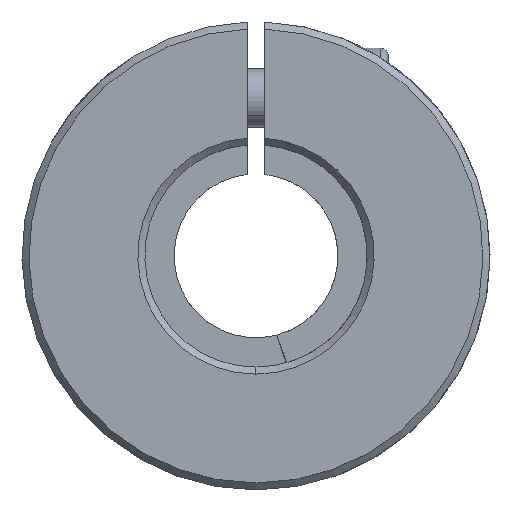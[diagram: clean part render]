
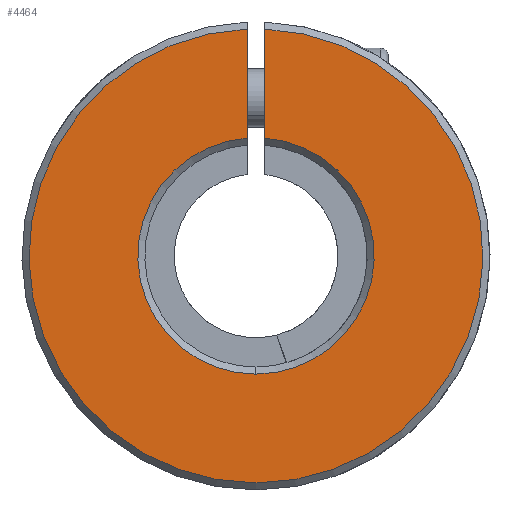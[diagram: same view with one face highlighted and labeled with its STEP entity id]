
A CAD part, front view. The second image highlights one B-rep face of the part: STEP entity #4464.
In plain terms, the highlighted planar face has unit normal (0, -1, 0).
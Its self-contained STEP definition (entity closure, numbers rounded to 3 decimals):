
#233 = DIRECTION ( 'NONE',  ( 0., 1., 0. ) ) ;
#430 = VECTOR ( 'NONE', #5551, 1000. ) ;
#548 = DIRECTION ( 'NONE',  ( 0., 0., 1. ) ) ;
#632 = LINE ( 'NONE', #1026, #430 ) ;
#737 = PLANE ( 'NONE',  #5043 ) ;
#1026 = CARTESIAN_POINT ( 'NONE',  ( 0.75, -25., -6. ) ) ;
#1065 = DIRECTION ( 'NONE',  ( 0., 0., 1. ) ) ;
#1120 = CARTESIAN_POINT ( 'NONE',  ( -0.75, -25., 19.385 ) ) ;
#1374 = CIRCLE ( 'NONE', #4742, 19.4 ) ;
#1436 = EDGE_LOOP ( 'NONE', ( #3938, #3217, #5619, #1895, #2095 ) ) ;
#1454 = DIRECTION ( 'NONE',  ( 0., 0., 1. ) ) ;
#1564 = CARTESIAN_POINT ( 'NONE',  ( -0.75, -25., 10.072 ) ) ;
#1575 = AXIS2_PLACEMENT_3D ( 'NONE', #5097, #5602, #2839 ) ;
#1685 = EDGE_CURVE ( 'NONE', #2582, #1964, #1374, .T. ) ;
#1707 = EDGE_CURVE ( 'NONE', #1964, #4754, #632, .T. ) ;
#1716 = EDGE_CURVE ( 'NONE', #2279, #2582, #5073, .T. ) ;
#1723 = DIRECTION ( 'NONE',  ( 0., -1., 0. ) ) ;
#1895 = ORIENTED_EDGE ( 'NONE', *, *, #1716, .T. ) ;
#1964 = VERTEX_POINT ( 'NONE', #3795 ) ;
#2095 = ORIENTED_EDGE ( 'NONE', *, *, #1685, .T. ) ;
#2279 = VERTEX_POINT ( 'NONE', #1564 ) ;
#2582 = VERTEX_POINT ( 'NONE', #1120 ) ;
#2739 = CARTESIAN_POINT ( 'NONE',  ( 0., -25., -10.1 ) ) ;
#2794 = CIRCLE ( 'NONE', #1575, 10.1 ) ;
#2824 = DIRECTION ( 'NONE',  ( 0., 1., 0. ) ) ;
#2839 = DIRECTION ( 'NONE',  ( 0., 0., 1. ) ) ;
#2886 = EDGE_CURVE ( 'NONE', #4754, #5101, #2794, .T. ) ;
#3217 = ORIENTED_EDGE ( 'NONE', *, *, #2886, .T. ) ;
#3261 = CARTESIAN_POINT ( 'NONE',  ( 0., -25., 0. ) ) ;
#3744 = CARTESIAN_POINT ( 'NONE',  ( -0.75, -25., -6. ) ) ;
#3795 = CARTESIAN_POINT ( 'NONE',  ( 0.75, -25., 19.385 ) ) ;
#3938 = ORIENTED_EDGE ( 'NONE', *, *, #1707, .T. ) ;
#4396 = AXIS2_PLACEMENT_3D ( 'NONE', #3261, #2824, #1065 ) ;
#4464 = ADVANCED_FACE ( 'NONE', ( #4770 ), #737, .F. ) ;
#4520 = CARTESIAN_POINT ( 'NONE',  ( 0., -25., 0. ) ) ;
#4742 = AXIS2_PLACEMENT_3D ( 'NONE', #4520, #1723, #5369 ) ;
#4754 = VERTEX_POINT ( 'NONE', #4891 ) ;
#4770 = FACE_OUTER_BOUND ( 'NONE', #1436, .T. ) ;
#4802 = CARTESIAN_POINT ( 'NONE',  ( 0., -25., 0. ) ) ;
#4891 = CARTESIAN_POINT ( 'NONE',  ( 0.75, -25., 10.072 ) ) ;
#5043 = AXIS2_PLACEMENT_3D ( 'NONE', #4802, #233, #1454 ) ;
#5073 = LINE ( 'NONE', #3744, #5684 ) ;
#5097 = CARTESIAN_POINT ( 'NONE',  ( 0., -25., 0. ) ) ;
#5101 = VERTEX_POINT ( 'NONE', #2739 ) ;
#5301 = EDGE_CURVE ( 'NONE', #5101, #2279, #5431, .T. ) ;
#5369 = DIRECTION ( 'NONE',  ( 0., 0., 1. ) ) ;
#5431 = CIRCLE ( 'NONE', #4396, 10.1 ) ;
#5551 = DIRECTION ( 'NONE',  ( 0., 0., -1. ) ) ;
#5602 = DIRECTION ( 'NONE',  ( 0., 1., 0. ) ) ;
#5619 = ORIENTED_EDGE ( 'NONE', *, *, #5301, .T. ) ;
#5684 = VECTOR ( 'NONE', #548, 1000. ) ;
